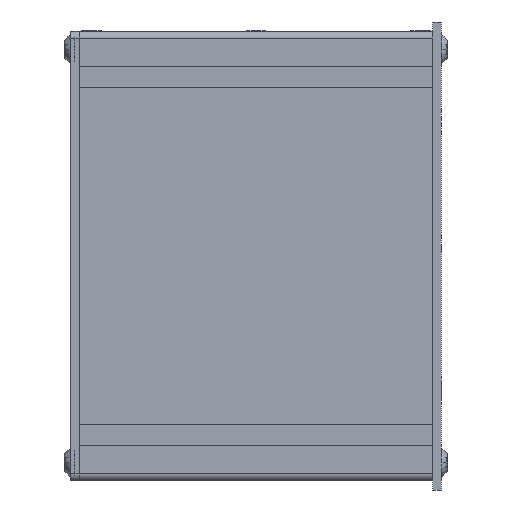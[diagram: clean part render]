
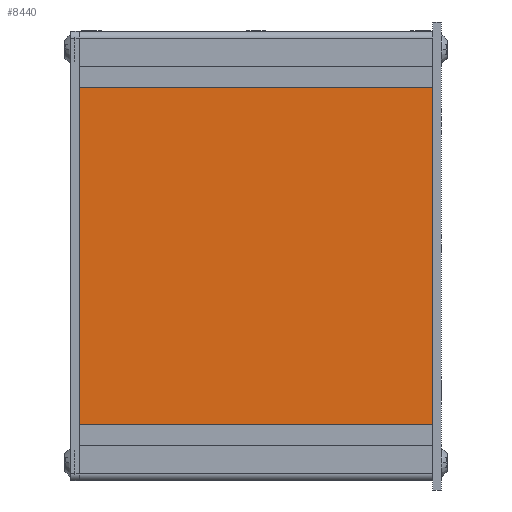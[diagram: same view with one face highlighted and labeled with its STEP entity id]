
A CAD part, left-side view. The second image highlights one B-rep face of the part: STEP entity #8440.
In plain terms, the highlighted planar face has unit normal (-1, 0, 0).
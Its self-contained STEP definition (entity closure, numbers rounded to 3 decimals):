
#932=PLANE('',#9294);
#1230=FACE_OUTER_BOUND('',#1760,.T.);
#1760=EDGE_LOOP('',(#6487,#6488,#6489,#6490));
#2504=LINE('',#13370,#3182);
#2514=LINE('',#13391,#3192);
#2515=LINE('',#13393,#3193);
#2516=LINE('',#13394,#3194);
#3182=VECTOR('',#10716,10.);
#3192=VECTOR('',#10734,10.);
#3193=VECTOR('',#10735,10.);
#3194=VECTOR('',#10736,10.);
#4160=VERTEX_POINT('',#13363);
#4163=VERTEX_POINT('',#13368);
#4170=VERTEX_POINT('',#13390);
#4171=VERTEX_POINT('',#13392);
#4995=EDGE_CURVE('',#4160,#4163,#2504,.T.);
#5005=EDGE_CURVE('',#4160,#4170,#2514,.T.);
#5006=EDGE_CURVE('',#4171,#4163,#2515,.T.);
#5007=EDGE_CURVE('',#4170,#4171,#2516,.T.);
#6487=ORIENTED_EDGE('',*,*,#5005,.F.);
#6488=ORIENTED_EDGE('',*,*,#4995,.T.);
#6489=ORIENTED_EDGE('',*,*,#5006,.F.);
#6490=ORIENTED_EDGE('',*,*,#5007,.F.);
#8440=ADVANCED_FACE('',(#1230),#932,.T.);
#9294=AXIS2_PLACEMENT_3D('',#13389,#10732,#10733);
#10716=DIRECTION('',(0.,1.,0.));
#10732=DIRECTION('center_axis',(-1.,0.,0.));
#10733=DIRECTION('ref_axis',(0.,0.,1.));
#10734=DIRECTION('',(0.,0.,-1.));
#10735=DIRECTION('',(0.,0.,1.));
#10736=DIRECTION('',(0.,1.,0.));
#13363=CARTESIAN_POINT('',(239.,0.,3.55));
#13368=CARTESIAN_POINT('',(239.,100.,3.55));
#13370=CARTESIAN_POINT('',(239.,0.,3.55));
#13389=CARTESIAN_POINT('Origin',(239.,0.,-91.65));
#13390=CARTESIAN_POINT('',(239.,0.,-91.65));
#13391=CARTESIAN_POINT('',(239.,0.,-44.05));
#13392=CARTESIAN_POINT('',(239.,100.,-91.65));
#13393=CARTESIAN_POINT('',(239.,100.,-44.05));
#13394=CARTESIAN_POINT('',(239.,0.,-91.65));
